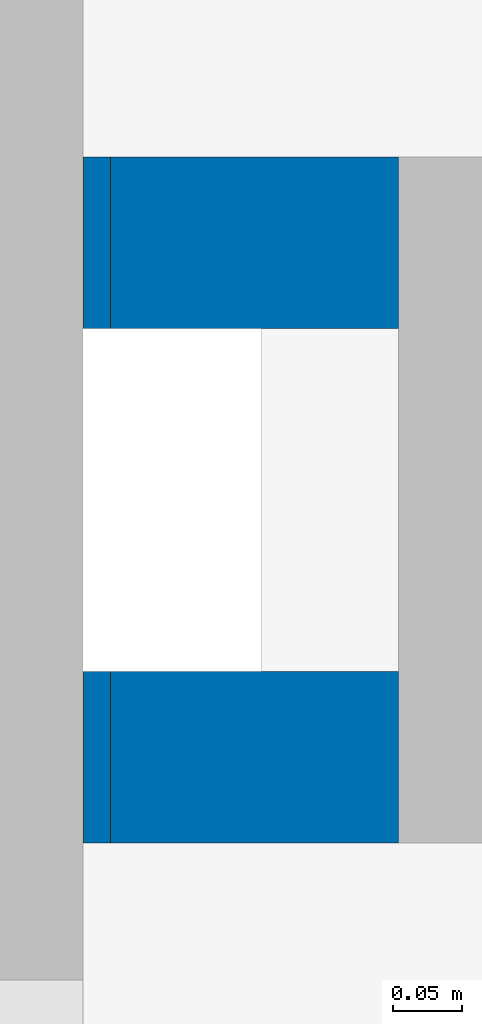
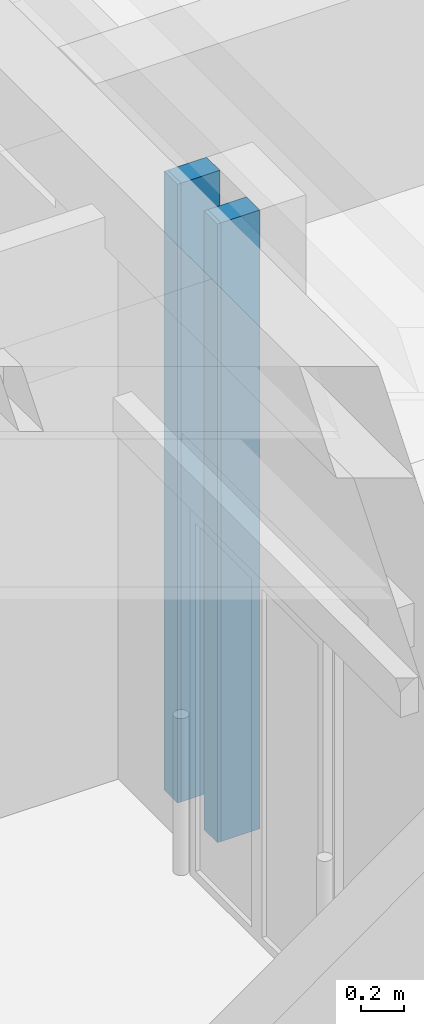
# One storey, part 43 of 140: 4 walls.
"""IFC4 building model written with IfcOpenShell, lengths in metres."""

from ifc_helpers import new_model, entity, si_unit, converted_unit, derived_unit, frame, frame_2d, origin, origin_with_axes, place, context, subcontext, project, spatial, rectangle, extrude, material, layer, layer_set, layer_usage, element, save


model = new_model("IFC4")

# Units and contexts
model_context = context("Model", 3, precision=1e-05, world=origin())
body_context = subcontext(model_context, "Body", "Model", "MODEL_VIEW")
ifc_project = project(units=[si_unit("LENGTHUNIT", "METRE"), si_unit("AREAUNIT", "SQUARE_METRE"), si_unit("VOLUMEUNIT", "CUBIC_METRE"), si_unit("MASSUNIT", "GRAM", prefix="KILO"), converted_unit("PLANEANGLEUNIT", "DEGREE", entity("IfcPlaneAngleMeasure", 0.0174532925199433), si_unit("PLANEANGLEUNIT", "RADIAN"), dimensions=[0, 0, 0, 0, 0, 0, 0]), derived_unit("THERMALTRANSMITTANCEUNIT", [(si_unit("POWERUNIT", "WATT"), 1), (si_unit("THERMODYNAMICTEMPERATUREUNIT", "KELVIN"), -1), (si_unit("LENGTHUNIT", "METRE"), -2)]), derived_unit("VOLUMETRICFLOWRATEUNIT", [(si_unit("LENGTHUNIT", "METRE"), 3), (converted_unit("TIMEUNIT", "hour", entity("IfcTimeMeasure", 3600.0), si_unit("TIMEUNIT", "SECOND"), dimensions=[0, 0, 1, 0, 0, 0, 0]), -1), (si_unit("LENGTHUNIT", "METRE"), -1)])], contexts=[model_context])

# Site, building, storey
site_placement = place(None, origin())
site = spatial("IfcSite", under=ifc_project, at=site_placement, Name="3. ASŘ", CompositionType="ELEMENT")
building_placement = place(site_placement, origin())
building = spatial("IfcBuilding", under=site, at=building_placement, Name="Pavilon C", CompositionType="ELEMENT")
storey_placement = place(building_placement, origin())
storey = spatial("IfcBuildingStorey", under=building, at=storey_placement, Name="Půdorys 1.NP", CompositionType="ELEMENT", Elevation=0.0)

# Walls
ifc_material_1 = material(Name="EPS")
ifc_layer_1 = layer(ifc_material_1, 0.02)
ifc_layer_set_1 = layer_set([ifc_layer_1])
ifc_layer_usage_1 = layer_usage(ifc_layer_set_1, "AXIS2", "POSITIVE", 0.0)
wall_1_placement = place(storey_placement, frame((51.52, 13.0, -0.15), z_axis=(0.0, 0.0, 1.0), x_axis=(0.0, 1.0, 0.0)))
element("IfcWall", 1, at=wall_1_placement, inside=storey, material=ifc_layer_usage_1, Name="EPS", context=body_context, shape_type="SweptSolid", body=[
    extrude(rectangle(XDim=0.125, YDim=0.02, at=frame_2d((0.0625, 0.01), x_axis=(1.0, 0.0))), origin_with_axes(), (0.0, 0.0, 1.0), 3.55),
])
ifc_material_2 = material(Name="EPS")
ifc_layer_2 = layer(ifc_material_2, 0.02)
ifc_layer_set_2 = layer_set([ifc_layer_2])
ifc_layer_usage_2 = layer_usage(ifc_layer_set_2, "AXIS2", "POSITIVE", 0.0)
wall_2_placement = place(storey_placement, frame((51.52, 13.375, -0.15), z_axis=(0.0, 0.0, 1.0), x_axis=(0.0, 1.0, 0.0)))
element("IfcWall", 2, at=wall_2_placement, inside=storey, material=ifc_layer_usage_2, Name="EPS", context=body_context, shape_type="SweptSolid", body=[
    extrude(rectangle(XDim=0.125, YDim=0.02, at=frame_2d((0.0625, 0.01), x_axis=(1.0, 0.0))), origin_with_axes(), (0.0, 0.0, 1.0), 3.55),
])
ifc_material_3 = material(Name="YTONG 125")
ifc_layer_3 = layer(ifc_material_3, 0.125)
ifc_layer_set_3 = layer_set([ifc_layer_3])
ifc_layer_usage_3 = layer_usage(ifc_layer_set_3, "AXIS2", "POSITIVE", 0.0)
wall_3_placement = place(storey_placement, frame((51.52, 13.0, -0.15)))
element("IfcWall", 3, at=wall_3_placement, inside=storey, material=ifc_layer_usage_3, Name="YTONG 125", context=body_context, shape_type="SweptSolid", body=[
    extrude(rectangle(XDim=0.21, YDim=0.125, at=frame_2d((0.105, 0.0625), x_axis=(1.0, 0.0))), origin_with_axes(), (0.0, 0.0, 1.0), 3.55),
])
ifc_material_4 = material(Name="YTONG 125")
ifc_layer_4 = layer(ifc_material_4, 0.125)
ifc_layer_set_4 = layer_set([ifc_layer_4])
ifc_layer_usage_4 = layer_usage(ifc_layer_set_4, "AXIS2", "POSITIVE", 0.0)
wall_4_placement = place(storey_placement, frame((51.52, 13.375, -0.15)))
element("IfcWall", 4, at=wall_4_placement, inside=storey, material=ifc_layer_usage_4, Name="YTONG 125", context=body_context, shape_type="SweptSolid", body=[
    extrude(rectangle(XDim=0.21, YDim=0.125, at=frame_2d((0.105, 0.0625), x_axis=(1.0, 0.0))), origin_with_axes(), (0.0, 0.0, 1.0), 3.55),
])

save(model, "model.ifc")
